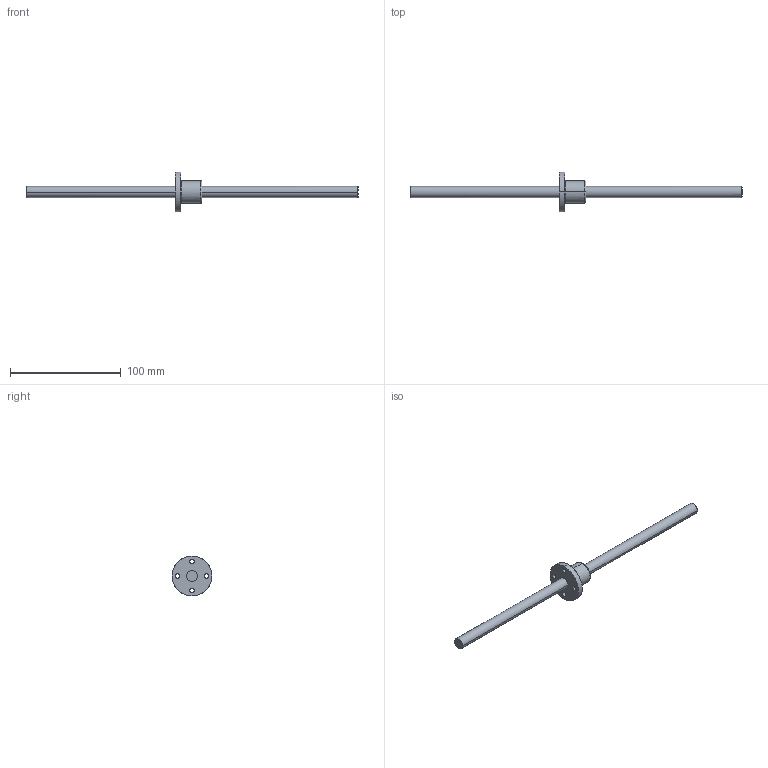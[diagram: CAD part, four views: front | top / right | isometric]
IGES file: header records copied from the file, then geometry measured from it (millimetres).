
Global section: file name: No Iges File Name specified; native system: AutoDesk Inventor R10; preprocessor: AutoDesk Inventor Iges Exporter R10; author: No Author specified; organization: No Organization specified; date: 20101224.144359; units: millimetre
Bounding box: 300 x 36 x 36 mm (x, y, z)
Surface area: 14087 mm2 (no closed solid volume)
Topology: 0 solids, 0 shells, 25 faces, 184 edges, 184 vertices
Faces by surface type: bspline 25
